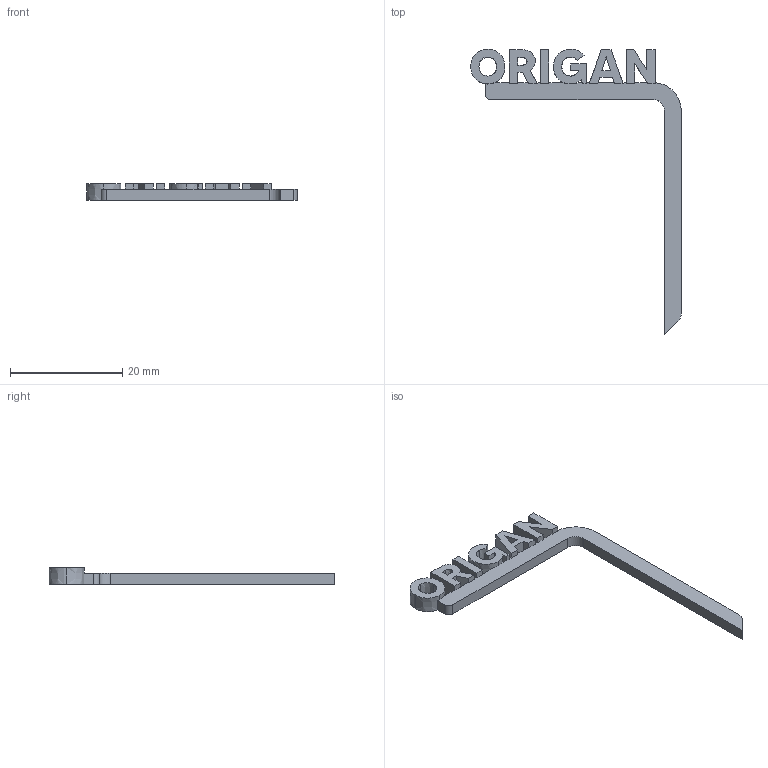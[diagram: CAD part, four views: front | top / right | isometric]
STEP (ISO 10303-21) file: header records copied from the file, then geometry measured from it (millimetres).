
FILE_DESCRIPTION(('STEP AP214'),'1');
FILE_NAME('Origan.stp','2025-04-24T13:19:48',(' '),(' '),'Spatial InterOp 3D',' ',' ');
FILE_SCHEMA(('AUTOMOTIVE_DESIGN { 1 0 10303 214 1 1 1 1 }'));
Length unit declared in the file: millimetre
Products named in the file (1): Origan
Bounding box: 37.57 x 50.98 x 3 mm (x, y, z)
Volume: 781.6 mm3; surface area: 1427 mm2
Topology: 1 solids, 1 shells, 89 faces, 275 edges, 184 vertices
Faces by surface type: plane 65, extrusion 20, cylinder 4
Entity records: 4023 total; most frequent: CARTESIAN_POINT 877, ORIENTED_EDGE 550, DIRECTION 397, EDGE_CURVE 275, VECTOR 241, LINE 221, VERTEX_POINT 184, EDGE_LOOP 99
